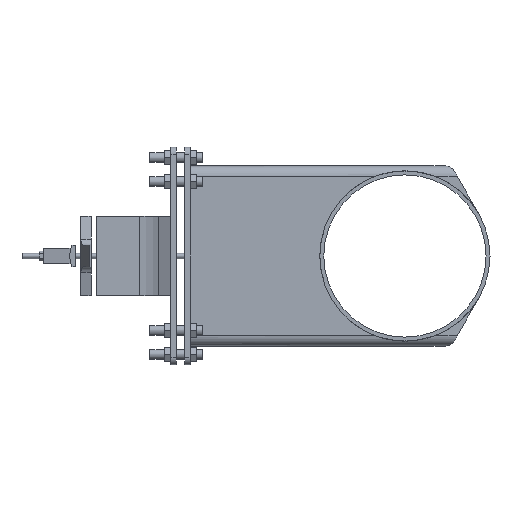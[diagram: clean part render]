
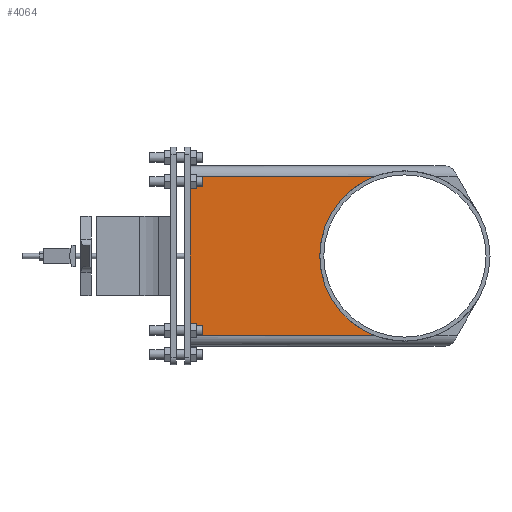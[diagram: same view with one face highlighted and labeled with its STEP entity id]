
A CAD part, left-side view. The second image highlights one B-rep face of the part: STEP entity #4064.
In plain terms, the highlighted planar face has unit normal (-1, 0, 0).
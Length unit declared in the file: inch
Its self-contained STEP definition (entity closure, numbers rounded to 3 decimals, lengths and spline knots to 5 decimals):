
#169=CIRCLE('',#4308,8.);
#308=FACE_OUTER_BOUND('',#531,.T.);
#531=EDGE_LOOP('',(#2723,#2724,#2725,#2726,#2727,#2728,#2729,#2730,#2731,
#2732,#2733,#2734));
#751=LINE('',#5736,#1181);
#755=LINE('',#5745,#1185);
#770=LINE('',#5773,#1200);
#809=LINE('',#5861,#1239);
#813=LINE('',#5870,#1243);
#817=LINE('',#5877,#1247);
#867=LINE('',#5985,#1297);
#868=LINE('',#5987,#1298);
#869=LINE('',#5991,#1299);
#870=LINE('',#5992,#1300);
#871=LINE('',#5993,#1301);
#1181=VECTOR('',#4610,0.3937);
#1185=VECTOR('',#4616,0.3937);
#1200=VECTOR('',#4641,0.3937);
#1239=VECTOR('',#4716,0.3937);
#1243=VECTOR('',#4722,0.3937);
#1247=VECTOR('',#4728,0.3937);
#1297=VECTOR('',#4822,0.3937);
#1298=VECTOR('',#4823,0.3937);
#1299=VECTOR('',#4826,0.3937);
#1300=VECTOR('',#4827,0.3937);
#1301=VECTOR('',#4828,0.3937);
#1611=VERTEX_POINT('',#5734);
#1612=VERTEX_POINT('',#5735);
#1615=VERTEX_POINT('',#5743);
#1616=VERTEX_POINT('',#5744);
#1654=VERTEX_POINT('',#5859);
#1655=VERTEX_POINT('',#5860);
#1658=VERTEX_POINT('',#5868);
#1659=VERTEX_POINT('',#5869);
#1697=VERTEX_POINT('',#5984);
#1698=VERTEX_POINT('',#5986);
#1699=VERTEX_POINT('',#5988);
#1700=VERTEX_POINT('',#5990);
#1982=EDGE_CURVE('',#1611,#1612,#751,.T.);
#1986=EDGE_CURVE('',#1615,#1616,#755,.T.);
#2001=EDGE_CURVE('',#1616,#1611,#770,.T.);
#2043=EDGE_CURVE('',#1654,#1655,#809,.T.);
#2047=EDGE_CURVE('',#1658,#1659,#813,.T.);
#2051=EDGE_CURVE('',#1659,#1654,#817,.T.);
#2104=EDGE_CURVE('',#1612,#1697,#867,.T.);
#2105=EDGE_CURVE('',#1698,#1697,#868,.T.);
#2106=EDGE_CURVE('',#1699,#1698,#169,.T.);
#2107=EDGE_CURVE('',#1700,#1699,#869,.T.);
#2108=EDGE_CURVE('',#1700,#1658,#870,.T.);
#2109=EDGE_CURVE('',#1655,#1615,#871,.T.);
#2723=ORIENTED_EDGE('',*,*,#1986,.T.);
#2724=ORIENTED_EDGE('',*,*,#2001,.T.);
#2725=ORIENTED_EDGE('',*,*,#1982,.T.);
#2726=ORIENTED_EDGE('',*,*,#2104,.T.);
#2727=ORIENTED_EDGE('',*,*,#2105,.F.);
#2728=ORIENTED_EDGE('',*,*,#2106,.F.);
#2729=ORIENTED_EDGE('',*,*,#2107,.F.);
#2730=ORIENTED_EDGE('',*,*,#2108,.T.);
#2731=ORIENTED_EDGE('',*,*,#2047,.T.);
#2732=ORIENTED_EDGE('',*,*,#2051,.T.);
#2733=ORIENTED_EDGE('',*,*,#2043,.T.);
#2734=ORIENTED_EDGE('',*,*,#2109,.T.);
#3677=PLANE('',#4307);
#4064=ADVANCED_FACE('',(#308),#3677,.F.);
#4307=AXIS2_PLACEMENT_3D('',#5983,#4820,#4821);
#4308=AXIS2_PLACEMENT_3D('',#5989,#4824,#4825);
#4610=DIRECTION('',(0.,1.,0.));
#4616=DIRECTION('',(0.,-1.,0.));
#4641=DIRECTION('',(0.,0.,-1.));
#4716=DIRECTION('',(0.,1.,0.));
#4722=DIRECTION('',(0.,-1.,0.));
#4728=DIRECTION('',(0.,0.,-1.));
#4820=DIRECTION('center_axis',(1.,0.,0.));
#4821=DIRECTION('ref_axis',(0.,0.,-1.));
#4822=DIRECTION('',(0.,0.,-1.));
#4823=DIRECTION('',(0.,1.,0.));
#4824=DIRECTION('center_axis',(-1.,0.,0.));
#4825=DIRECTION('ref_axis',(0.,1.,0.));
#4826=DIRECTION('',(0.,-1.,0.));
#4827=DIRECTION('',(0.,0.,-1.));
#4828=DIRECTION('',(0.,0.,-1.));
#5734=CARTESIAN_POINT('',(-4.37,19.6,-7.20881));
#5735=CARTESIAN_POINT('',(-4.37,20.2,-7.20881));
#5736=CARTESIAN_POINT('',(-4.37,13.88184,-7.20881));
#5743=CARTESIAN_POINT('',(-4.37,20.2,-6.79119));
#5744=CARTESIAN_POINT('',(-4.37,19.6,-6.79119));
#5745=CARTESIAN_POINT('',(-4.37,13.88184,-6.79119));
#5773=CARTESIAN_POINT('',(-4.37,19.6,-3.5));
#5859=CARTESIAN_POINT('',(-4.37,19.6,6.79119));
#5860=CARTESIAN_POINT('',(-4.37,20.2,6.79119));
#5861=CARTESIAN_POINT('',(-4.37,13.88184,6.79119));
#5868=CARTESIAN_POINT('',(-4.37,20.2,7.20881));
#5869=CARTESIAN_POINT('',(-4.37,19.6,7.20881));
#5870=CARTESIAN_POINT('',(-4.37,13.88184,7.20881));
#5877=CARTESIAN_POINT('',(-4.37,19.6,3.5));
#5983=CARTESIAN_POINT('Origin',(-4.37,7.56368,0.));
#5984=CARTESIAN_POINT('',(-4.37,20.2,-7.465));
#5985=CARTESIAN_POINT('',(-4.37,20.2,8.465));
#5986=CARTESIAN_POINT('',(-4.37,2.87642,-7.465));
#5987=CARTESIAN_POINT('',(-4.37,1.60667,-7.465));
#5988=CARTESIAN_POINT('',(-4.37,2.87642,7.465));
#5989=CARTESIAN_POINT('Origin',(-4.37,0.,0.));
#5990=CARTESIAN_POINT('',(-4.37,20.2,7.465));
#5991=CARTESIAN_POINT('',(-4.37,13.88184,7.465));
#5992=CARTESIAN_POINT('',(-4.37,20.2,8.465));
#5993=CARTESIAN_POINT('',(-4.37,20.2,8.465));
